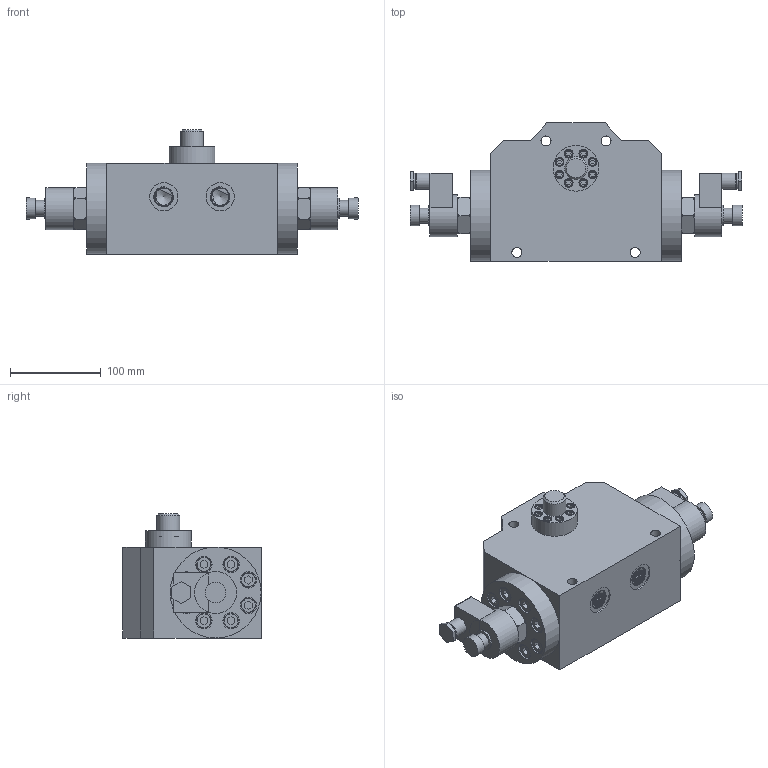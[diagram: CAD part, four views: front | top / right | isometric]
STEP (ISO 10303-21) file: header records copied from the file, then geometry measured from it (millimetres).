
FILE_DESCRIPTION(/* description */ (''),/* implementation_level */ '2;1');
FILE_NAME(/* name */ '数字7.prt.stp',/* time_stamp */ '2023-05-03T15:19:53+08:00',/* author */ (''),/* organization */ (''),/* preprocessor_version */ 'ST-DEVELOPER v16.7',/* originating_system */ 'SIEMENS PLM Software NX 12.0',/* authorisation */ '');
FILE_SCHEMA (('AUTOMOTIVE_DESIGN { 1 0 10303 214 3 1 1 1 }'));
Length unit declared in the file: millimetre
Products named in the file (1): 数字7
Bounding box: 365.03 x 152 x 136.5 mm (x, y, z)
Volume: 3196497.7 mm3; surface area: 336238.3 mm2
Topology: 51 solids, 51 shells, 821 faces, 1907 edges, 1247 vertices
Faces by surface type: plane 482, cylinder 206, torus 72, cone 52, bspline 9
Full cylindrical faces by diameter (mm): 4.2 x8, 5 x8, 5.5 x8, 8.5 x24, 9.5 x8, 10 x16, 11 x20, 16 x18, 16.666 x2, 18 x20, 22.666 x4, 25.101 x2, 31 x2, 38 x1, 46.188 x2, 50.299 x1, 100 x2
Entity records: 39627 total; most frequent: CARTESIAN_POINT 21611, DIRECTION 3623, ORIENTED_EDGE 3162, EDGE_CURVE 1581, AXIS2_PLACEMENT_3D 1363, EDGE_LOOP 1220, VERTEX_POINT 1194, LINE 897
